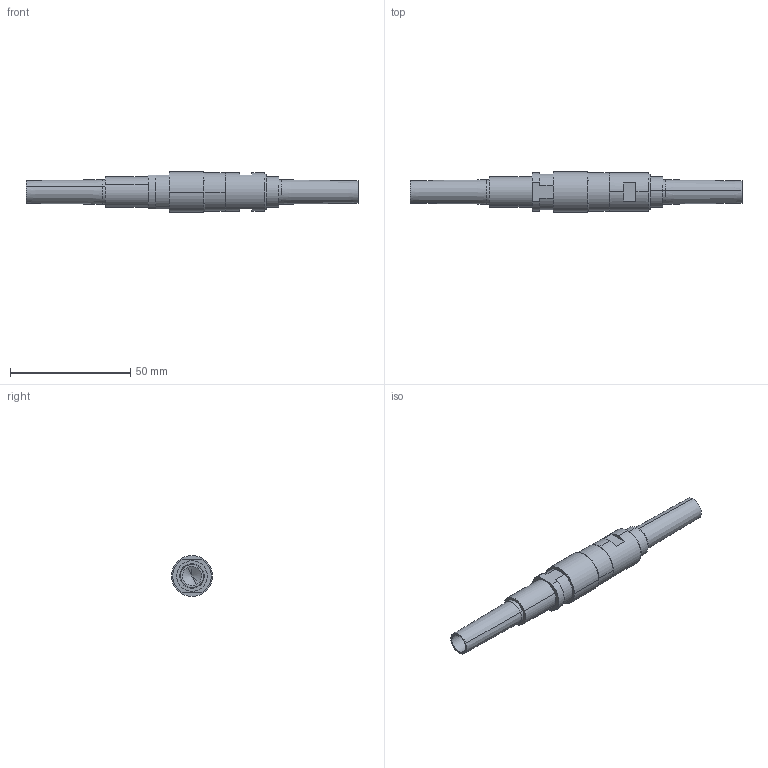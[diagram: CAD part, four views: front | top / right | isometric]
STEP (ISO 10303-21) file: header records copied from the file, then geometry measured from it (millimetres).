
FILE_DESCRIPTION (( 'STEP AP203' ), '1' );
FILE_NAME ('FDPCK-QR-INDEX.step', '2019-09-11T18:24:06', ( 'ydmin' ), ( '' ), 'SwSTEP 2.0', 'SolidWorks 2017', '' );
FILE_SCHEMA (( 'CONFIG_CONTROL_DESIGN' ));
Length unit declared in the file: inch
Products named in the file (1): FDPCK-QR-INDEX
Bounding box: 137.95 x 17.02 x 17.02 mm (x, y, z)
Volume: 14275.4 mm3; surface area: 10608.3 mm2
Topology: 4 solids, 4 shells, 101 faces, 218 edges, 130 vertices
Faces by surface type: cylinder 42, plane 27, cone 24, torus 6, sphere 2
Entity records: 2787 total; most frequent: DIRECTION 528, CARTESIAN_POINT 472, ORIENTED_EDGE 416, AXIS2_PLACEMENT_3D 220, EDGE_CURVE 208, VERTEX_POINT 128, CIRCLE 118, EDGE_LOOP 114
